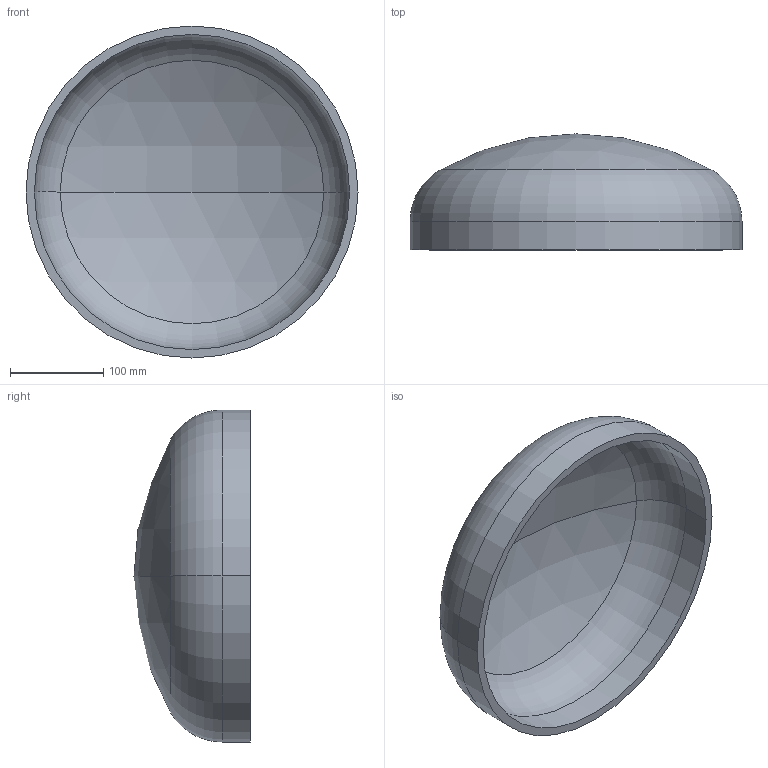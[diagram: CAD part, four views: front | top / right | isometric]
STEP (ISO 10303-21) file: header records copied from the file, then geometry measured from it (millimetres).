
FILE_DESCRIPTION (( 'STEP AP203' ), '1' );
FILE_NAME ('DIN 28013 Korbbogenform_-_Boden DIN 28013 - 355,6 x 30 - I - s=9.step', '2016-07-01T07:46:16', ( '' ), ( '' ), 'SwSTEP 2.0', 'SolidWorks 2013', '' );
FILE_SCHEMA (( 'CONFIG_CONTROL_DESIGN' ));
Length unit declared in the file: millimetre
Products named in the file (1): DIN 28013 Korbbogenform_-_Boden DIN 28013 - 355,6 x 30 - I - s=9
Bounding box: 355.6 x 124.28 x 355.6 mm (x, y, z)
Volume: 1492725.2 mm3; surface area: 341686.2 mm2
Topology: 1 solids, 1 shells, 13 faces, 24 edges, 14 vertices
Faces by surface type: torus 4, cylinder 4, sphere 4, plane 1
Entity records: 407 total; most frequent: DIRECTION 72, CARTESIAN_POINT 52, ORIENTED_EDGE 48, AXIS2_PLACEMENT_3D 34, EDGE_CURVE 24, CIRCLE 20, VERTEX_POINT 14, EDGE_LOOP 14
